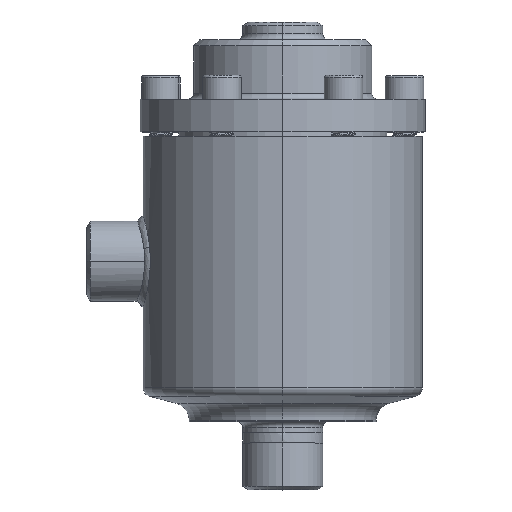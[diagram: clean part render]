
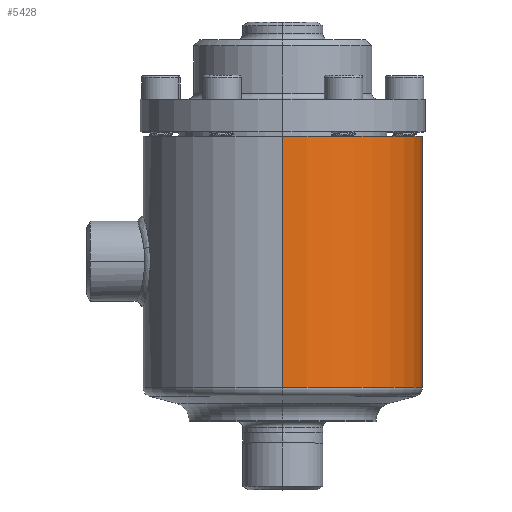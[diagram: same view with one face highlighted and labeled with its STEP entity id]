
A CAD part, top view. The second image highlights one B-rep face of the part: STEP entity #5428.
In plain terms, the highlighted cylindrical face has radius 47 mm (diameter 94 mm), a partial arc.
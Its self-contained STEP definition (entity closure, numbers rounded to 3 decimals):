
#143 = CIRCLE ( 'NONE', #144, 47. ) ;
#144 = AXIS2_PLACEMENT_3D ( 'NONE', #145, #146, #147 ) ;
#145 = CARTESIAN_POINT ( 'NONE',  ( 0., 80.527, 0. ) ) ;
#146 = DIRECTION ( 'NONE',  ( 0., 1., 0. ) ) ;
#147 = DIRECTION ( 'NONE',  ( 0., 0., 1. ) ) ;
#1788 = CARTESIAN_POINT ( 'NONE',  ( 0., 80.527, -47. ) ) ;
#2063 = LINE ( 'NONE', #2064, #2065 ) ;
#2064 = CARTESIAN_POINT ( 'NONE',  ( 0., 76.795, -47. ) ) ;
#2065 = VECTOR ( 'NONE', #2069, 1000. ) ;
#2069 = DIRECTION ( 'NONE',  ( 0., 1., 0. ) ) ;
#18603 = CARTESIAN_POINT ( 'NONE',  ( 0., 80.527, 47. ) ) ;
#2298 = VERTEX_POINT ( 'NONE', #18603 ) ;
#2521 = EDGE_CURVE ( 'NONE', #2298, #3404, #143, .T. ) ;
#2881 = ORIENTED_EDGE ( 'NONE', *, *, #2521, .F. ) ;
#3404 = VERTEX_POINT ( 'NONE', #1788 ) ;
#3622 = EDGE_CURVE ( 'NONE', #7832, #3404, #2063, .T. ) ;
#3990 = ORIENTED_EDGE ( 'NONE', *, *, #3622, .T. ) ;
#4508 = ORIENTED_EDGE ( 'NONE', *, *, #6880, .T. ) ;
#5190 = EDGE_LOOP ( 'NONE', ( #4508, #3990, #2881, #16069 ) ) ;
#5428 = ADVANCED_FACE ( 'NONE', ( #6139 ), #6140, .T. ) ;
#6139 = FACE_OUTER_BOUND ( 'NONE', #5190, .T. ) ;
#6140 = CYLINDRICAL_SURFACE ( 'NONE', #6141, 47. ) ;
#6141 = AXIS2_PLACEMENT_3D ( 'NONE', #6142, #6143, #6144 ) ;
#6142 = CARTESIAN_POINT ( 'NONE',  ( 0., 76.795, 0. ) ) ;
#6143 = DIRECTION ( 'NONE',  ( 0., 1., 0. ) ) ;
#6144 = DIRECTION ( 'NONE',  ( 0., 0., 1. ) ) ;
#6702 = VERTEX_POINT ( 'NONE', #7569 ) ;
#6880 = EDGE_CURVE ( 'NONE', #6702, #7832, #7756, .T. ) ;
#7005 = LINE ( 'NONE', #7006, #7007 ) ;
#7006 = CARTESIAN_POINT ( 'NONE',  ( 0., 76.795, 47. ) ) ;
#7007 = VECTOR ( 'NONE', #7008, 1000. ) ;
#7008 = DIRECTION ( 'NONE',  ( 0., 1., 0. ) ) ;
#7569 = CARTESIAN_POINT ( 'NONE',  ( 0., -4.017, 47. ) ) ;
#7756 = CIRCLE ( 'NONE', #7757, 47. ) ;
#7757 = AXIS2_PLACEMENT_3D ( 'NONE', #7758, #7759, #7760 ) ;
#7758 = CARTESIAN_POINT ( 'NONE',  ( 0., -4.017, 0. ) ) ;
#7759 = DIRECTION ( 'NONE',  ( 0., 1., 0. ) ) ;
#7760 = DIRECTION ( 'NONE',  ( 0., 0., 1. ) ) ;
#7832 = VERTEX_POINT ( 'NONE', #8997 ) ;
#8997 = CARTESIAN_POINT ( 'NONE',  ( 0., -4.017, -47. ) ) ;
#15398 = EDGE_CURVE ( 'NONE', #6702, #2298, #7005, .T. ) ;
#16069 = ORIENTED_EDGE ( 'NONE', *, *, #15398, .F. ) ;
